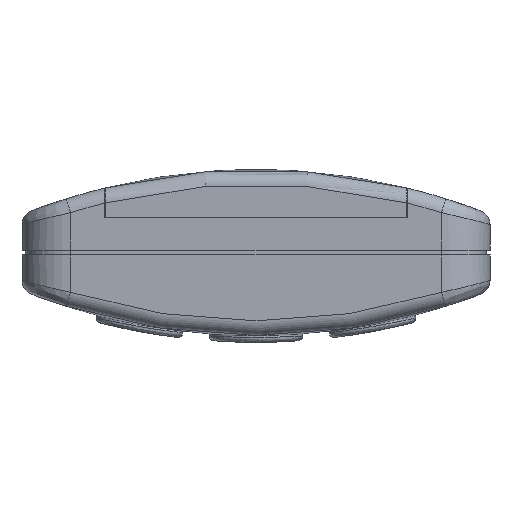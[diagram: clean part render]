
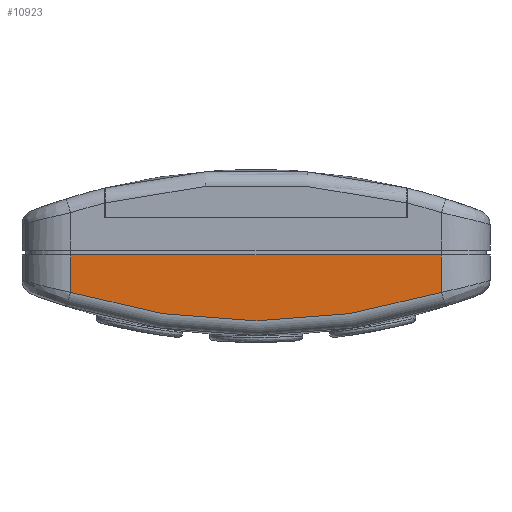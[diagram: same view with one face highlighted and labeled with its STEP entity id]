
A CAD part, front view. The second image highlights one B-rep face of the part: STEP entity #10923.
In plain terms, the highlighted planar face has unit normal (0, -1, 0).
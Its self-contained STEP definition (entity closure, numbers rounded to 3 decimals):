
#1157=DIRECTION('',(1.,0.,0.));
#1158=VECTOR('',#1157,38.);
#1159=CARTESIAN_POINT('',(-19.,-92.5,-0.25));
#1160=LINE('',#1159,#1158);
#1161=DIRECTION('',(0.,0.,-1.));
#1162=VECTOR('',#1161,3.837);
#1163=CARTESIAN_POINT('',(19.,-92.5,-0.25));
#1164=LINE('',#1163,#1162);
#1165=CARTESIAN_POINT('',(0.,-92.5,56.399));
#1166=DIRECTION('',(0.,1.,0.));
#1167=DIRECTION('',(0.3,0.,-0.954));
#1168=AXIS2_PLACEMENT_3D('',#1165,#1166,#1167);
#1185=DIRECTION('',(0.,0.,-1.));
#1186=VECTOR('',#1185,3.837);
#1187=CARTESIAN_POINT('',(-19.,-92.5,-0.25));
#1188=LINE('',#1187,#1186);
#9005=CARTESIAN_POINT('',(19.,-92.5,-4.087));
#9006=VERTEX_POINT('',#9005);
#9009=CARTESIAN_POINT('',(19.,-92.5,-0.25));
#9010=VERTEX_POINT('',#9009);
#9011=CARTESIAN_POINT('',(-19.,-92.5,-0.25));
#9012=VERTEX_POINT('',#9011);
#9039=CARTESIAN_POINT('',(-19.,-92.5,-4.087));
#9040=VERTEX_POINT('',#9039);
#10910=CARTESIAN_POINT('',(0.,-92.5,-3.631));
#10911=DIRECTION('',(0.,1.,0.));
#10912=DIRECTION('',(1.,0.,0.));
#10913=AXIS2_PLACEMENT_3D('',#10910,#10911,#10912);
#10914=PLANE('',#10913);
#10915=ORIENTED_EDGE('',*,*,#10867,.T.);
#10916=ORIENTED_EDGE('',*,*,#10850,.T.);
#10918=ORIENTED_EDGE('',*,*,#10917,.T.);
#10920=ORIENTED_EDGE('',*,*,#10919,.F.);
#10921=EDGE_LOOP('',(#10915,#10916,#10918,#10920));
#10922=FACE_OUTER_BOUND('',#10921,.F.);
#10923=ADVANCED_FACE('',(#10922),#10914,.F.);
#1169=CIRCLE('',#1168,63.4);
#10850=EDGE_CURVE('',#9010,#9006,#1164,.T.);
#10867=EDGE_CURVE('',#9012,#9010,#1160,.T.);
#10917=EDGE_CURVE('',#9006,#9040,#1169,.T.);
#10919=EDGE_CURVE('',#9012,#9040,#1188,.T.);
